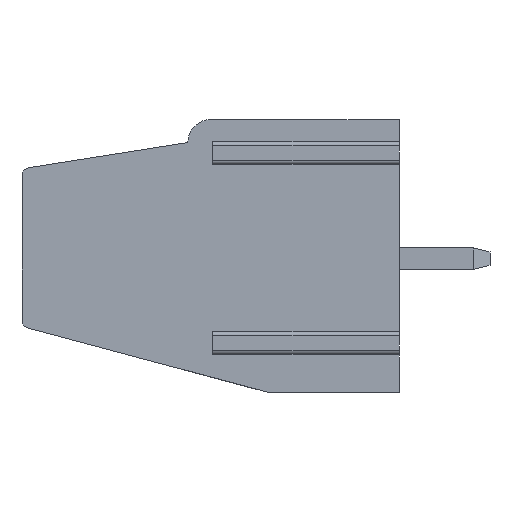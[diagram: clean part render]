
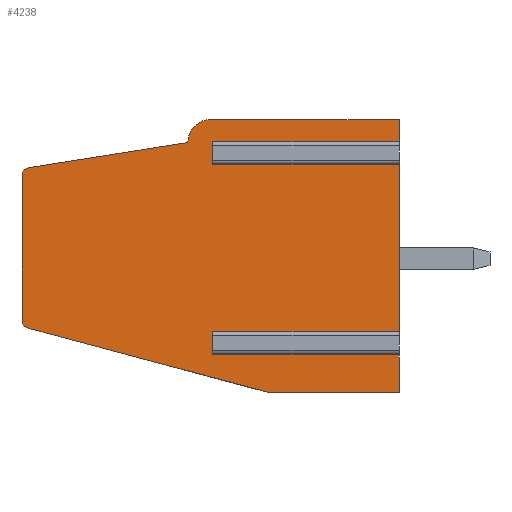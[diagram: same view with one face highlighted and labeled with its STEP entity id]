
A CAD part, left-side view. The second image highlights one B-rep face of the part: STEP entity #4238.
In plain terms, the highlighted planar face has unit normal (-1, 0, 0).
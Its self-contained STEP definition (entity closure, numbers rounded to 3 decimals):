
#40 = VERTEX_POINT ( 'NONE', #3009 ) ;
#179 = VECTOR ( 'NONE', #533, 1000. ) ;
#202 = DIRECTION ( 'NONE',  ( 0., -0.966, -0.259 ) ) ;
#205 = ORIENTED_EDGE ( 'NONE', *, *, #4796, .T. ) ;
#210 = CARTESIAN_POINT ( 'NONE',  ( 0., 13.847, 8.4 ) ) ;
#272 = ORIENTED_EDGE ( 'NONE', *, *, #3529, .T. ) ;
#286 = CARTESIAN_POINT ( 'NONE',  ( 0., 0., 0. ) ) ;
#302 = CARTESIAN_POINT ( 'NONE',  ( 0., 0., 2.15 ) ) ;
#327 = VERTEX_POINT ( 'NONE', #4055 ) ;
#330 = VECTOR ( 'NONE', #3198, 1000. ) ;
#371 = LINE ( 'NONE', #4572, #1128 ) ;
#375 = ORIENTED_EDGE ( 'NONE', *, *, #2711, .T. ) ;
#425 = CARTESIAN_POINT ( 'NONE',  ( 0., 0., 10.2 ) ) ;
#432 = CARTESIAN_POINT ( 'NONE',  ( 0., 0., 9.25 ) ) ;
#436 = CARTESIAN_POINT ( 'NONE',  ( 0., 6.96, 1.55 ) ) ;
#456 = ORIENTED_EDGE ( 'NONE', *, *, #5344, .T. ) ;
#467 = DIRECTION ( 'NONE',  ( 0., 1., 0. ) ) ;
#488 = DIRECTION ( 'NONE',  ( 0., 1., 0. ) ) ;
#533 = DIRECTION ( 'NONE',  ( 0., 0., 1. ) ) ;
#600 = DIRECTION ( 'NONE',  ( 0., 1., 0. ) ) ;
#758 = CARTESIAN_POINT ( 'NONE',  ( 0., 4.9, 0. ) ) ;
#822 = VERTEX_POINT ( 'NONE', #4552 ) ;
#830 = EDGE_CURVE ( 'NONE', #40, #822, #1240, .T. ) ;
#984 = CARTESIAN_POINT ( 'NONE',  ( 0., 13.878, 2.41 ) ) ;
#1010 = LINE ( 'NONE', #984, #2736 ) ;
#1029 = CARTESIAN_POINT ( 'NONE',  ( 0., 6.96, 2.15 ) ) ;
#1057 = CARTESIAN_POINT ( 'NONE',  ( 0., 0., 0. ) ) ;
#1059 = CARTESIAN_POINT ( 'NONE',  ( 0., 0., 10.2 ) ) ;
#1060 = VECTOR ( 'NONE', #5349, 1000. ) ;
#1067 = VERTEX_POINT ( 'NONE', #1352 ) ;
#1128 = VECTOR ( 'NONE', #2051, 1000. ) ;
#1201 = EDGE_CURVE ( 'NONE', #1542, #3809, #2234, .T. ) ;
#1240 = LINE ( 'NONE', #432, #2619 ) ;
#1283 = DIRECTION ( 'NONE',  ( -1., 0., 0. ) ) ;
#1306 = AXIS2_PLACEMENT_3D ( 'NONE', #4350, #1323, #488 ) ;
#1323 = DIRECTION ( 'NONE',  ( -1., 0., 0. ) ) ;
#1348 = CARTESIAN_POINT ( 'NONE',  ( 0., 0., 8.65 ) ) ;
#1352 = CARTESIAN_POINT ( 'NONE',  ( 0., 6.96, 8.65 ) ) ;
#1361 = CARTESIAN_POINT ( 'NONE',  ( 0., 7.04, 9.34 ) ) ;
#1434 = LINE ( 'NONE', #2232, #3102 ) ;
#1497 = DIRECTION ( 'NONE',  ( 0., 0., -1. ) ) ;
#1542 = VERTEX_POINT ( 'NONE', #758 ) ;
#1552 = EDGE_CURVE ( 'NONE', #5152, #1067, #371, .T. ) ;
#1562 = AXIS2_PLACEMENT_3D ( 'NONE', #1361, #1283, #5121 ) ;
#1580 = LINE ( 'NONE', #4952, #5021 ) ;
#1630 = VERTEX_POINT ( 'NONE', #4094 ) ;
#1733 = ORIENTED_EDGE ( 'NONE', *, *, #5093, .T. ) ;
#1734 = CARTESIAN_POINT ( 'NONE',  ( 0., 0., 0. ) ) ;
#1770 = CARTESIAN_POINT ( 'NONE',  ( 0., 13.8, 8.104 ) ) ;
#1876 = DIRECTION ( 'NONE',  ( 0., 0.156, 0.988 ) ) ;
#1961 = ORIENTED_EDGE ( 'NONE', *, *, #1552, .T. ) ;
#1984 = ORIENTED_EDGE ( 'NONE', *, *, #830, .F. ) ;
#2051 = DIRECTION ( 'NONE',  ( 0., 1., 0. ) ) ;
#2092 = PLANE ( 'NONE',  #5126 ) ;
#2177 = AXIS2_PLACEMENT_3D ( 'NONE', #1770, #4356, #1876 ) ;
#2232 = CARTESIAN_POINT ( 'NONE',  ( 0., 0., 2.15 ) ) ;
#2234 = LINE ( 'NONE', #5225, #3771 ) ;
#2251 = CARTESIAN_POINT ( 'NONE',  ( 0., 0., 1.55 ) ) ;
#2315 = CARTESIAN_POINT ( 'NONE',  ( 0., 6.96, 2.15 ) ) ;
#2341 = EDGE_CURVE ( 'NONE', #4174, #5152, #3023, .T. ) ;
#2433 = VECTOR ( 'NONE', #1497, 1000. ) ;
#2463 = VECTOR ( 'NONE', #3845, 1000. ) ;
#2470 = CARTESIAN_POINT ( 'NONE',  ( 0., 14.1, 8.104 ) ) ;
#2472 = EDGE_CURVE ( 'NONE', #4714, #5006, #4373, .T. ) ;
#2501 = EDGE_CURVE ( 'NONE', #4182, #5328, #2846, .T. ) ;
#2619 = VECTOR ( 'NONE', #3806, 1000. ) ;
#2669 = ORIENTED_EDGE ( 'NONE', *, *, #4053, .T. ) ;
#2711 = EDGE_CURVE ( 'NONE', #327, #1630, #3656, .T. ) ;
#2736 = VECTOR ( 'NONE', #202, 1000. ) ;
#2791 = EDGE_CURVE ( 'NONE', #3287, #4823, #4733, .T. ) ;
#2843 = ORIENTED_EDGE ( 'NONE', *, *, #5233, .F. ) ;
#2846 = B_SPLINE_CURVE_WITH_KNOTS ( 'NONE', 3,
 ( #3579, #5302, #3988, #210 ),
 .UNSPECIFIED., .F., .F.,
 ( 4, 4 ),
 ( 0., 1. ),
 .UNSPECIFIED. ) ;
#2921 = ORIENTED_EDGE ( 'NONE', *, *, #2791, .T. ) ;
#3009 = CARTESIAN_POINT ( 'NONE',  ( 0., 0., 9.25 ) ) ;
#3023 = LINE ( 'NONE', #4292, #4398 ) ;
#3031 = EDGE_CURVE ( 'NONE', #40, #3287, #1580, .T. ) ;
#3102 = VECTOR ( 'NONE', #4748, 1000. ) ;
#3142 = CARTESIAN_POINT ( 'NONE',  ( 0., 13.847, 8.4 ) ) ;
#3185 = CARTESIAN_POINT ( 'NONE',  ( 0., 6.96, 9.25 ) ) ;
#3198 = DIRECTION ( 'NONE',  ( 0., 0., -1. ) ) ;
#3212 = ORIENTED_EDGE ( 'NONE', *, *, #2501, .T. ) ;
#3253 = ORIENTED_EDGE ( 'NONE', *, *, #2341, .T. ) ;
#3287 = VERTEX_POINT ( 'NONE', #1059 ) ;
#3305 = FACE_OUTER_BOUND ( 'NONE', #3714, .T. ) ;
#3343 = CARTESIAN_POINT ( 'NONE',  ( 0., 0., 1.55 ) ) ;
#3514 = CIRCLE ( 'NONE', #1306, 0.3 ) ;
#3529 = EDGE_CURVE ( 'NONE', #4981, #1542, #1010, .T. ) ;
#3579 = CARTESIAN_POINT ( 'NONE',  ( 0., 7.9, 9.342 ) ) ;
#3596 = LINE ( 'NONE', #3185, #2433 ) ;
#3649 = ORIENTED_EDGE ( 'NONE', *, *, #1201, .T. ) ;
#3656 = LINE ( 'NONE', #2470, #1060 ) ;
#3714 = EDGE_LOOP ( 'NONE', ( #5175, #3253, #1961, #5036, #1984, #3955, #2921, #456, #3212, #205, #375, #1733, #272, #3649, #2669, #4175, #2843 ) ) ;
#3722 = DIRECTION ( 'NONE',  ( 1., 0., 0. ) ) ;
#3771 = VECTOR ( 'NONE', #4808, 1000. ) ;
#3805 = DIRECTION ( 'NONE',  ( 0., 0., 1. ) ) ;
#3806 = DIRECTION ( 'NONE',  ( 0., 1., 0. ) ) ;
#3809 = VERTEX_POINT ( 'NONE', #286 ) ;
#3845 = DIRECTION ( 'NONE',  ( 0., 1., 0. ) ) ;
#3941 = CIRCLE ( 'NONE', #1562, 0.86 ) ;
#3955 = ORIENTED_EDGE ( 'NONE', *, *, #3031, .T. ) ;
#3988 = CARTESIAN_POINT ( 'NONE',  ( 0., 11.865, 8.714 ) ) ;
#4041 = VERTEX_POINT ( 'NONE', #1029 ) ;
#4049 = LINE ( 'NONE', #2315, #330 ) ;
#4053 = EDGE_CURVE ( 'NONE', #3809, #4714, #4360, .T. ) ;
#4055 = CARTESIAN_POINT ( 'NONE',  ( 0., 14.1, 8.104 ) ) ;
#4094 = CARTESIAN_POINT ( 'NONE',  ( 0., 14.1, 2.7 ) ) ;
#4174 = VERTEX_POINT ( 'NONE', #302 ) ;
#4175 = ORIENTED_EDGE ( 'NONE', *, *, #2472, .T. ) ;
#4182 = VERTEX_POINT ( 'NONE', #4530 ) ;
#4238 = ADVANCED_FACE ( 'NONE', ( #3305 ), #2092, .F. ) ;
#4290 = CIRCLE ( 'NONE', #2177, 0.3 ) ;
#4292 = CARTESIAN_POINT ( 'NONE',  ( 0., 0., 2.15 ) ) ;
#4350 = CARTESIAN_POINT ( 'NONE',  ( 0., 13.8, 2.7 ) ) ;
#4356 = DIRECTION ( 'NONE',  ( -1., 0., 0. ) ) ;
#4360 = LINE ( 'NONE', #1057, #179 ) ;
#4373 = LINE ( 'NONE', #2251, #5016 ) ;
#4376 = EDGE_CURVE ( 'NONE', #4174, #4041, #1434, .T. ) ;
#4398 = VECTOR ( 'NONE', #3805, 1000. ) ;
#4530 = CARTESIAN_POINT ( 'NONE',  ( 0., 7.9, 9.342 ) ) ;
#4552 = CARTESIAN_POINT ( 'NONE',  ( 0., 6.96, 9.25 ) ) ;
#4572 = CARTESIAN_POINT ( 'NONE',  ( 0., 0., 8.65 ) ) ;
#4584 = EDGE_CURVE ( 'NONE', #822, #1067, #3596, .T. ) ;
#4714 = VERTEX_POINT ( 'NONE', #3343 ) ;
#4733 = LINE ( 'NONE', #425, #2463 ) ;
#4748 = DIRECTION ( 'NONE',  ( 0., 1., 0. ) ) ;
#4796 = EDGE_CURVE ( 'NONE', #5328, #327, #4290, .T. ) ;
#4808 = DIRECTION ( 'NONE',  ( 0., -1., 0. ) ) ;
#4823 = VERTEX_POINT ( 'NONE', #4940 ) ;
#4896 = DIRECTION ( 'NONE',  ( 0., 0., 1. ) ) ;
#4940 = CARTESIAN_POINT ( 'NONE',  ( 0., 7.04, 10.2 ) ) ;
#4952 = CARTESIAN_POINT ( 'NONE',  ( 0., 0., 9.25 ) ) ;
#4981 = VERTEX_POINT ( 'NONE', #5049 ) ;
#5006 = VERTEX_POINT ( 'NONE', #436 ) ;
#5016 = VECTOR ( 'NONE', #600, 1000. ) ;
#5021 = VECTOR ( 'NONE', #4896, 1000. ) ;
#5036 = ORIENTED_EDGE ( 'NONE', *, *, #4584, .F. ) ;
#5049 = CARTESIAN_POINT ( 'NONE',  ( 0., 13.878, 2.41 ) ) ;
#5093 = EDGE_CURVE ( 'NONE', #1630, #4981, #3514, .T. ) ;
#5121 = DIRECTION ( 'NONE',  ( 0., 0., 1. ) ) ;
#5126 = AXIS2_PLACEMENT_3D ( 'NONE', #1734, #3722, #467 ) ;
#5152 = VERTEX_POINT ( 'NONE', #1348 ) ;
#5175 = ORIENTED_EDGE ( 'NONE', *, *, #4376, .F. ) ;
#5225 = CARTESIAN_POINT ( 'NONE',  ( 0., 4.9, 0. ) ) ;
#5233 = EDGE_CURVE ( 'NONE', #4041, #5006, #4049, .T. ) ;
#5302 = CARTESIAN_POINT ( 'NONE',  ( 0., 9.882, 9.028 ) ) ;
#5328 = VERTEX_POINT ( 'NONE', #3142 ) ;
#5344 = EDGE_CURVE ( 'NONE', #4823, #4182, #3941, .T. ) ;
#5349 = DIRECTION ( 'NONE',  ( 0., 0., -1. ) ) ;
